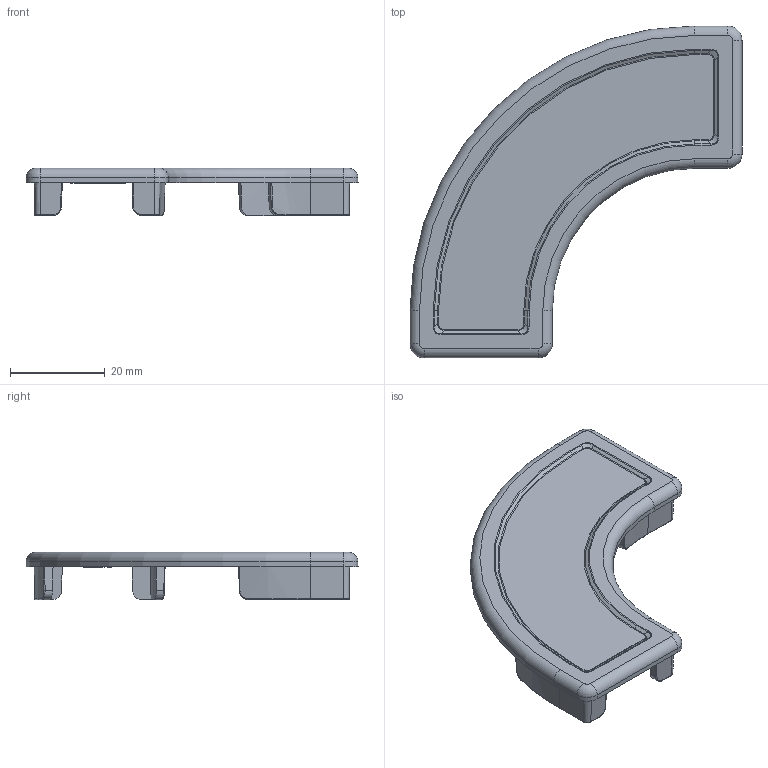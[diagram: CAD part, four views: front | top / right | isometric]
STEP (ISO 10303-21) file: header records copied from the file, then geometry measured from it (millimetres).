
FILE_DESCRIPTION (( 'STEP AP203' ), '1' );
FILE_NAME ('013.100.043.STEP', '2021-11-15T10:53:11', ( '' ), ( '' ), 'SwSTEP 2.0', 'SolidWorks 2018', '' );
FILE_SCHEMA (( 'CONFIG_CONTROL_DESIGN' ));
Length unit declared in the file: millimetre
Products named in the file (1): 013.100.043
Bounding box: 70 x 70 x 10 mm (x, y, z)
Volume: 8371 mm3; surface area: 7478.9 mm2
Topology: 1 solids, 1 shells, 354 faces, 941 edges, 606 vertices
Faces by surface type: plane 229, cylinder 42, cone 41, bspline 24, torus 18
Entity records: 11842 total; most frequent: CARTESIAN_POINT 3086, ORIENTED_EDGE 1882, DIRECTION 1703, EDGE_CURVE 941, LINE 705, VECTOR 705, VERTEX_POINT 606, AXIS2_PLACEMENT_3D 499
